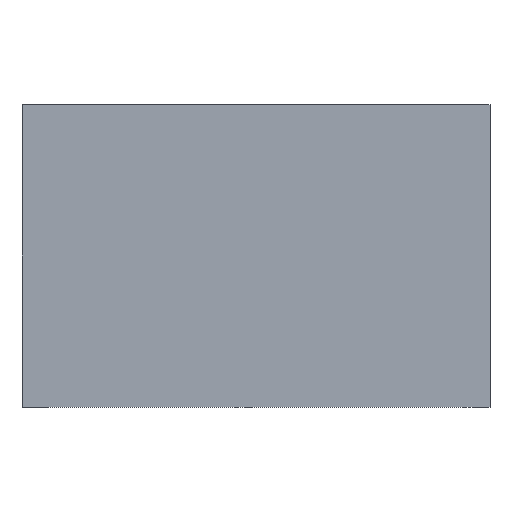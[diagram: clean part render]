
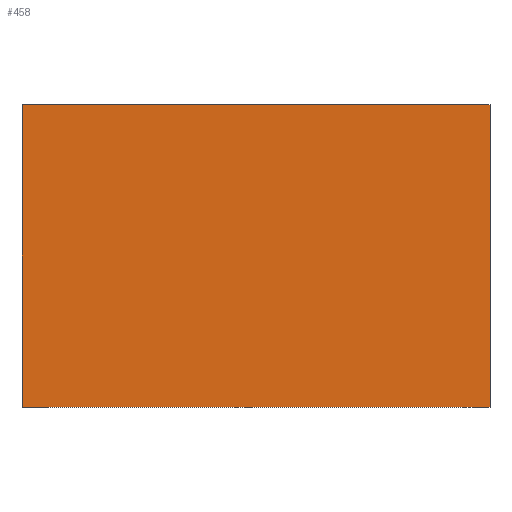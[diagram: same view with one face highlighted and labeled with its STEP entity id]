
A CAD part, front view. The second image highlights one B-rep face of the part: STEP entity #458.
In plain terms, the highlighted planar face has unit normal (0, -1, 0).
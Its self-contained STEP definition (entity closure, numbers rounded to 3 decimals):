
#10 = ORIENTED_EDGE ( 'NONE', *, *, #531, .F. ) ;
#32 = CARTESIAN_POINT ( 'NONE',  ( 0., 17., -97.5 ) ) ;
#73 = CARTESIAN_POINT ( 'NONE',  ( 0., 17., 0. ) ) ;
#78 = VERTEX_POINT ( 'NONE', #260 ) ;
#84 = DIRECTION ( 'NONE',  ( 0., 0., 1. ) ) ;
#138 = VERTEX_POINT ( 'NONE', #682 ) ;
#149 = FACE_OUTER_BOUND ( 'NONE', #517, .T. ) ;
#163 = CARTESIAN_POINT ( 'NONE',  ( 0., 17., 0. ) ) ;
#193 = VECTOR ( 'NONE', #84, 1000. ) ;
#202 = VECTOR ( 'NONE', #480, 1000. ) ;
#218 = DIRECTION ( 'NONE',  ( 0., -1., 0. ) ) ;
#223 = VECTOR ( 'NONE', #350, 1000. ) ;
#233 = LINE ( 'NONE', #669, #529 ) ;
#242 = AXIS2_PLACEMENT_3D ( 'NONE', #163, #218, #693 ) ;
#260 = CARTESIAN_POINT ( 'NONE',  ( 151., 17., 0. ) ) ;
#313 = EDGE_CURVE ( 'NONE', #138, #616, #233, .T. ) ;
#317 = PLANE ( 'NONE',  #242 ) ;
#343 = LINE ( 'NONE', #420, #202 ) ;
#350 = DIRECTION ( 'NONE',  ( 1., 0., 0. ) ) ;
#371 = LINE ( 'NONE', #73, #223 ) ;
#416 = CARTESIAN_POINT ( 'NONE',  ( 0., 17., 0. ) ) ;
#420 = CARTESIAN_POINT ( 'NONE',  ( 151., 17., 0. ) ) ;
#458 = ADVANCED_FACE ( 'NONE', ( #149 ), #317, .T. ) ;
#476 = ORIENTED_EDGE ( 'NONE', *, *, #313, .F. ) ;
#480 = DIRECTION ( 'NONE',  ( 0., 0., -1. ) ) ;
#517 = EDGE_LOOP ( 'NONE', ( #640, #476, #684, #10 ) ) ;
#526 = CARTESIAN_POINT ( 'NONE',  ( 0., 17., 0. ) ) ;
#529 = VECTOR ( 'NONE', #663, 1000. ) ;
#531 = EDGE_CURVE ( 'NONE', #596, #78, #371, .T. ) ;
#596 = VERTEX_POINT ( 'NONE', #526 ) ;
#604 = LINE ( 'NONE', #416, #193 ) ;
#614 = EDGE_CURVE ( 'NONE', #616, #596, #604, .T. ) ;
#616 = VERTEX_POINT ( 'NONE', #32 ) ;
#625 = EDGE_CURVE ( 'NONE', #78, #138, #343, .T. ) ;
#640 = ORIENTED_EDGE ( 'NONE', *, *, #614, .F. ) ;
#663 = DIRECTION ( 'NONE',  ( -1., 0., 0. ) ) ;
#669 = CARTESIAN_POINT ( 'NONE',  ( 0., 17., -97.5 ) ) ;
#682 = CARTESIAN_POINT ( 'NONE',  ( 151., 17., -97.5 ) ) ;
#684 = ORIENTED_EDGE ( 'NONE', *, *, #625, .F. ) ;
#693 = DIRECTION ( 'NONE',  ( 0., 0., -1. ) ) ;
